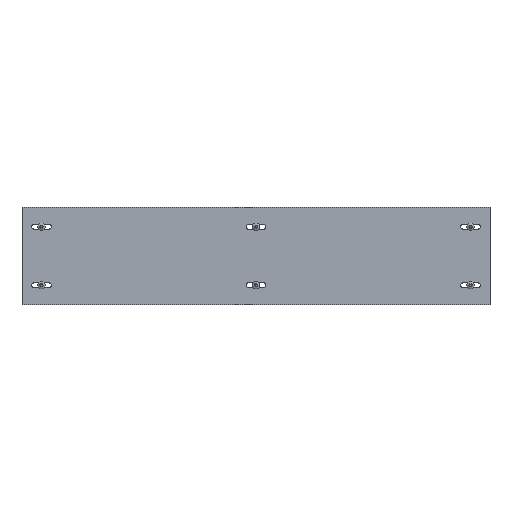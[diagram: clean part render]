
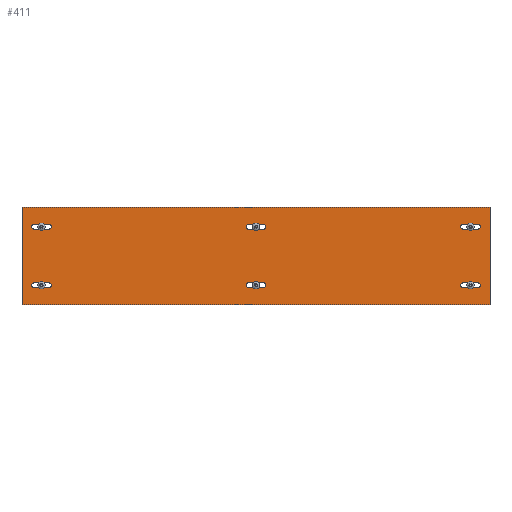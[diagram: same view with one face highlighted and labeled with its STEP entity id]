
A CAD part, top view. The second image highlights one B-rep face of the part: STEP entity #411.
In plain terms, the highlighted planar face has unit normal (0, 0, 1).
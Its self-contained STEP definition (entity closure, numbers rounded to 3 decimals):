
#63 = EDGE_CURVE('',#64,#66,#68,.T.);
#64 = VERTEX_POINT('',#65);
#65 = CARTESIAN_POINT('',(-300.,62.5,0.));
#66 = VERTEX_POINT('',#67);
#67 = CARTESIAN_POINT('',(-300.,-62.5,0.));
#68 = LINE('',#69,#70);
#69 = CARTESIAN_POINT('',(-300.,-62.5,0.));
#70 = VECTOR('',#71,1.);
#71 = DIRECTION('',(-0.,-1.,-0.));
#103 = EDGE_CURVE('',#104,#64,#106,.T.);
#104 = VERTEX_POINT('',#105);
#105 = CARTESIAN_POINT('',(300.,62.5,0.));
#106 = LINE('',#107,#108);
#107 = CARTESIAN_POINT('',(300.,62.5,0.));
#108 = VECTOR('',#109,1.);
#109 = DIRECTION('',(-1.,0.,0.));
#134 = EDGE_CURVE('',#135,#104,#137,.T.);
#135 = VERTEX_POINT('',#136);
#136 = CARTESIAN_POINT('',(300.,-62.5,0.));
#137 = LINE('',#138,#139);
#138 = CARTESIAN_POINT('',(300.,-62.5,0.));
#139 = VECTOR('',#140,1.);
#140 = DIRECTION('',(0.,1.,0.));
#165 = EDGE_CURVE('',#66,#135,#166,.T.);
#166 = LINE('',#167,#168);
#167 = CARTESIAN_POINT('',(300.,-62.5,0.));
#168 = VECTOR('',#169,1.);
#169 = DIRECTION('',(1.,0.,-0.));
#411 = ADVANCED_FACE('',(#412,#448,#484,#520,#556,#592,#628),#634,.T.);
#412 = FACE_BOUND('',#413,.T.);
#413 = EDGE_LOOP('',(#414,#425,#433,#442));
#414 = ORIENTED_EDGE('',*,*,#415,.F.);
#415 = EDGE_CURVE('',#416,#418,#420,.T.);
#416 = VERTEX_POINT('',#417);
#417 = CARTESIAN_POINT('',(-9.25,40.75,0.));
#418 = VERTEX_POINT('',#419);
#419 = CARTESIAN_POINT('',(-9.25,34.25,0.));
#420 = CIRCLE('',#421,3.25);
#421 = AXIS2_PLACEMENT_3D('',#422,#423,#424);
#422 = CARTESIAN_POINT('',(-9.25,37.5,0.));
#423 = DIRECTION('',(0.,0.,1.));
#424 = DIRECTION('',(1.,0.,-0.));
#425 = ORIENTED_EDGE('',*,*,#426,.F.);
#426 = EDGE_CURVE('',#427,#416,#429,.T.);
#427 = VERTEX_POINT('',#428);
#428 = CARTESIAN_POINT('',(9.25,40.75,0.));
#429 = LINE('',#430,#431);
#430 = CARTESIAN_POINT('',(-9.25,40.75,0.));
#431 = VECTOR('',#432,1.);
#432 = DIRECTION('',(-1.,-0.,-0.));
#433 = ORIENTED_EDGE('',*,*,#434,.F.);
#434 = EDGE_CURVE('',#435,#427,#437,.T.);
#435 = VERTEX_POINT('',#436);
#436 = CARTESIAN_POINT('',(9.25,34.25,0.));
#437 = CIRCLE('',#438,3.25);
#438 = AXIS2_PLACEMENT_3D('',#439,#440,#441);
#439 = CARTESIAN_POINT('',(9.25,37.5,0.));
#440 = DIRECTION('',(0.,0.,1.));
#441 = DIRECTION('',(1.,0.,-0.));
#442 = ORIENTED_EDGE('',*,*,#443,.F.);
#443 = EDGE_CURVE('',#418,#435,#444,.T.);
#444 = LINE('',#445,#446);
#445 = CARTESIAN_POINT('',(-9.25,34.25,0.));
#446 = VECTOR('',#447,1.);
#447 = DIRECTION('',(1.,0.,0.));
#448 = FACE_BOUND('',#449,.T.);
#449 = EDGE_LOOP('',(#450,#461,#469,#478));
#450 = ORIENTED_EDGE('',*,*,#451,.F.);
#451 = EDGE_CURVE('',#452,#454,#456,.T.);
#452 = VERTEX_POINT('',#453);
#453 = CARTESIAN_POINT('',(-9.25,-34.25,0.));
#454 = VERTEX_POINT('',#455);
#455 = CARTESIAN_POINT('',(-9.25,-40.75,0.));
#456 = CIRCLE('',#457,3.25);
#457 = AXIS2_PLACEMENT_3D('',#458,#459,#460);
#458 = CARTESIAN_POINT('',(-9.25,-37.5,0.));
#459 = DIRECTION('',(0.,0.,1.));
#460 = DIRECTION('',(-1.,0.,0.));
#461 = ORIENTED_EDGE('',*,*,#462,.F.);
#462 = EDGE_CURVE('',#463,#452,#465,.T.);
#463 = VERTEX_POINT('',#464);
#464 = CARTESIAN_POINT('',(9.25,-34.25,0.));
#465 = LINE('',#466,#467);
#466 = CARTESIAN_POINT('',(-9.25,-34.25,0.));
#467 = VECTOR('',#468,1.);
#468 = DIRECTION('',(-1.,-0.,-0.));
#469 = ORIENTED_EDGE('',*,*,#470,.F.);
#470 = EDGE_CURVE('',#471,#463,#473,.T.);
#471 = VERTEX_POINT('',#472);
#472 = CARTESIAN_POINT('',(9.25,-40.75,0.));
#473 = CIRCLE('',#474,3.25);
#474 = AXIS2_PLACEMENT_3D('',#475,#476,#477);
#475 = CARTESIAN_POINT('',(9.25,-37.5,0.));
#476 = DIRECTION('',(0.,0.,1.));
#477 = DIRECTION('',(-1.,0.,0.));
#478 = ORIENTED_EDGE('',*,*,#479,.F.);
#479 = EDGE_CURVE('',#454,#471,#480,.T.);
#480 = LINE('',#481,#482);
#481 = CARTESIAN_POINT('',(-9.25,-40.75,0.));
#482 = VECTOR('',#483,1.);
#483 = DIRECTION('',(1.,0.,0.));
#484 = FACE_BOUND('',#485,.T.);
#485 = EDGE_LOOP('',(#486,#497,#505,#514));
#486 = ORIENTED_EDGE('',*,*,#487,.F.);
#487 = EDGE_CURVE('',#488,#490,#492,.T.);
#488 = VERTEX_POINT('',#489);
#489 = CARTESIAN_POINT('',(-265.75,-40.75,0.));
#490 = VERTEX_POINT('',#491);
#491 = CARTESIAN_POINT('',(-265.75,-34.25,0.));
#492 = CIRCLE('',#493,3.25);
#493 = AXIS2_PLACEMENT_3D('',#494,#495,#496);
#494 = CARTESIAN_POINT('',(-265.75,-37.5,0.));
#495 = DIRECTION('',(0.,0.,1.));
#496 = DIRECTION('',(1.,0.,-0.));
#497 = ORIENTED_EDGE('',*,*,#498,.F.);
#498 = EDGE_CURVE('',#499,#488,#501,.T.);
#499 = VERTEX_POINT('',#500);
#500 = CARTESIAN_POINT('',(-284.25,-40.75,0.));
#501 = LINE('',#502,#503);
#502 = CARTESIAN_POINT('',(-265.75,-40.75,0.));
#503 = VECTOR('',#504,1.);
#504 = DIRECTION('',(1.,-0.,-0.));
#505 = ORIENTED_EDGE('',*,*,#506,.F.);
#506 = EDGE_CURVE('',#507,#499,#509,.T.);
#507 = VERTEX_POINT('',#508);
#508 = CARTESIAN_POINT('',(-284.25,-34.25,0.));
#509 = CIRCLE('',#510,3.25);
#510 = AXIS2_PLACEMENT_3D('',#511,#512,#513);
#511 = CARTESIAN_POINT('',(-284.25,-37.5,0.));
#512 = DIRECTION('',(0.,0.,1.));
#513 = DIRECTION('',(1.,0.,-0.));
#514 = ORIENTED_EDGE('',*,*,#515,.F.);
#515 = EDGE_CURVE('',#490,#507,#516,.T.);
#516 = LINE('',#517,#518);
#517 = CARTESIAN_POINT('',(-265.75,-34.25,0.));
#518 = VECTOR('',#519,1.);
#519 = DIRECTION('',(-1.,0.,0.));
#520 = FACE_BOUND('',#521,.T.);
#521 = EDGE_LOOP('',(#522,#533,#541,#550));
#522 = ORIENTED_EDGE('',*,*,#523,.F.);
#523 = EDGE_CURVE('',#524,#526,#528,.T.);
#524 = VERTEX_POINT('',#525);
#525 = CARTESIAN_POINT('',(-265.75,34.25,0.));
#526 = VERTEX_POINT('',#527);
#527 = CARTESIAN_POINT('',(-265.75,40.75,0.));
#528 = CIRCLE('',#529,3.25);
#529 = AXIS2_PLACEMENT_3D('',#530,#531,#532);
#530 = CARTESIAN_POINT('',(-265.75,37.5,0.));
#531 = DIRECTION('',(0.,0.,1.));
#532 = DIRECTION('',(-1.,0.,0.));
#533 = ORIENTED_EDGE('',*,*,#534,.F.);
#534 = EDGE_CURVE('',#535,#524,#537,.T.);
#535 = VERTEX_POINT('',#536);
#536 = CARTESIAN_POINT('',(-284.25,34.25,0.));
#537 = LINE('',#538,#539);
#538 = CARTESIAN_POINT('',(-265.75,34.25,0.));
#539 = VECTOR('',#540,1.);
#540 = DIRECTION('',(1.,-0.,-0.));
#541 = ORIENTED_EDGE('',*,*,#542,.F.);
#542 = EDGE_CURVE('',#543,#535,#545,.T.);
#543 = VERTEX_POINT('',#544);
#544 = CARTESIAN_POINT('',(-284.25,40.75,0.));
#545 = CIRCLE('',#546,3.25);
#546 = AXIS2_PLACEMENT_3D('',#547,#548,#549);
#547 = CARTESIAN_POINT('',(-284.25,37.5,0.));
#548 = DIRECTION('',(0.,0.,1.));
#549 = DIRECTION('',(-1.,0.,0.));
#550 = ORIENTED_EDGE('',*,*,#551,.F.);
#551 = EDGE_CURVE('',#526,#543,#552,.T.);
#552 = LINE('',#553,#554);
#553 = CARTESIAN_POINT('',(-265.75,40.75,0.));
#554 = VECTOR('',#555,1.);
#555 = DIRECTION('',(-1.,0.,0.));
#556 = FACE_BOUND('',#557,.T.);
#557 = EDGE_LOOP('',(#558,#569,#577,#586));
#558 = ORIENTED_EDGE('',*,*,#559,.F.);
#559 = EDGE_CURVE('',#560,#562,#564,.T.);
#560 = VERTEX_POINT('',#561);
#561 = CARTESIAN_POINT('',(265.75,40.75,0.));
#562 = VERTEX_POINT('',#563);
#563 = CARTESIAN_POINT('',(265.75,34.25,0.));
#564 = CIRCLE('',#565,3.25);
#565 = AXIS2_PLACEMENT_3D('',#566,#567,#568);
#566 = CARTESIAN_POINT('',(265.75,37.5,0.));
#567 = DIRECTION('',(0.,0.,1.));
#568 = DIRECTION('',(1.,0.,-0.));
#569 = ORIENTED_EDGE('',*,*,#570,.F.);
#570 = EDGE_CURVE('',#571,#560,#573,.T.);
#571 = VERTEX_POINT('',#572);
#572 = CARTESIAN_POINT('',(284.25,40.75,0.));
#573 = LINE('',#574,#575);
#574 = CARTESIAN_POINT('',(265.75,40.75,0.));
#575 = VECTOR('',#576,1.);
#576 = DIRECTION('',(-1.,-0.,-0.));
#577 = ORIENTED_EDGE('',*,*,#578,.F.);
#578 = EDGE_CURVE('',#579,#571,#581,.T.);
#579 = VERTEX_POINT('',#580);
#580 = CARTESIAN_POINT('',(284.25,34.25,0.));
#581 = CIRCLE('',#582,3.25);
#582 = AXIS2_PLACEMENT_3D('',#583,#584,#585);
#583 = CARTESIAN_POINT('',(284.25,37.5,0.));
#584 = DIRECTION('',(0.,0.,1.));
#585 = DIRECTION('',(1.,0.,-0.));
#586 = ORIENTED_EDGE('',*,*,#587,.F.);
#587 = EDGE_CURVE('',#562,#579,#588,.T.);
#588 = LINE('',#589,#590);
#589 = CARTESIAN_POINT('',(265.75,34.25,0.));
#590 = VECTOR('',#591,1.);
#591 = DIRECTION('',(1.,0.,0.));
#592 = FACE_BOUND('',#593,.T.);
#593 = EDGE_LOOP('',(#594,#605,#613,#622));
#594 = ORIENTED_EDGE('',*,*,#595,.F.);
#595 = EDGE_CURVE('',#596,#598,#600,.T.);
#596 = VERTEX_POINT('',#597);
#597 = CARTESIAN_POINT('',(265.75,-34.25,0.));
#598 = VERTEX_POINT('',#599);
#599 = CARTESIAN_POINT('',(265.75,-40.75,0.));
#600 = CIRCLE('',#601,3.25);
#601 = AXIS2_PLACEMENT_3D('',#602,#603,#604);
#602 = CARTESIAN_POINT('',(265.75,-37.5,0.));
#603 = DIRECTION('',(0.,0.,1.));
#604 = DIRECTION('',(-1.,0.,0.));
#605 = ORIENTED_EDGE('',*,*,#606,.F.);
#606 = EDGE_CURVE('',#607,#596,#609,.T.);
#607 = VERTEX_POINT('',#608);
#608 = CARTESIAN_POINT('',(284.25,-34.25,0.));
#609 = LINE('',#610,#611);
#610 = CARTESIAN_POINT('',(265.75,-34.25,0.));
#611 = VECTOR('',#612,1.);
#612 = DIRECTION('',(-1.,-0.,-0.));
#613 = ORIENTED_EDGE('',*,*,#614,.F.);
#614 = EDGE_CURVE('',#615,#607,#617,.T.);
#615 = VERTEX_POINT('',#616);
#616 = CARTESIAN_POINT('',(284.25,-40.75,0.));
#617 = CIRCLE('',#618,3.25);
#618 = AXIS2_PLACEMENT_3D('',#619,#620,#621);
#619 = CARTESIAN_POINT('',(284.25,-37.5,0.));
#620 = DIRECTION('',(0.,0.,1.));
#621 = DIRECTION('',(-1.,0.,0.));
#622 = ORIENTED_EDGE('',*,*,#623,.F.);
#623 = EDGE_CURVE('',#598,#615,#624,.T.);
#624 = LINE('',#625,#626);
#625 = CARTESIAN_POINT('',(265.75,-40.75,0.));
#626 = VECTOR('',#627,1.);
#627 = DIRECTION('',(1.,0.,0.));
#628 = FACE_BOUND('',#629,.T.);
#629 = EDGE_LOOP('',(#630,#631,#632,#633));
#630 = ORIENTED_EDGE('',*,*,#63,.T.);
#631 = ORIENTED_EDGE('',*,*,#165,.T.);
#632 = ORIENTED_EDGE('',*,*,#134,.T.);
#633 = ORIENTED_EDGE('',*,*,#103,.T.);
#634 = PLANE('',#635);
#635 = AXIS2_PLACEMENT_3D('',#636,#637,#638);
#636 = CARTESIAN_POINT('',(0.,0.,0.));
#637 = DIRECTION('',(0.,-0.,1.));
#638 = DIRECTION('',(1.,0.,0.));
